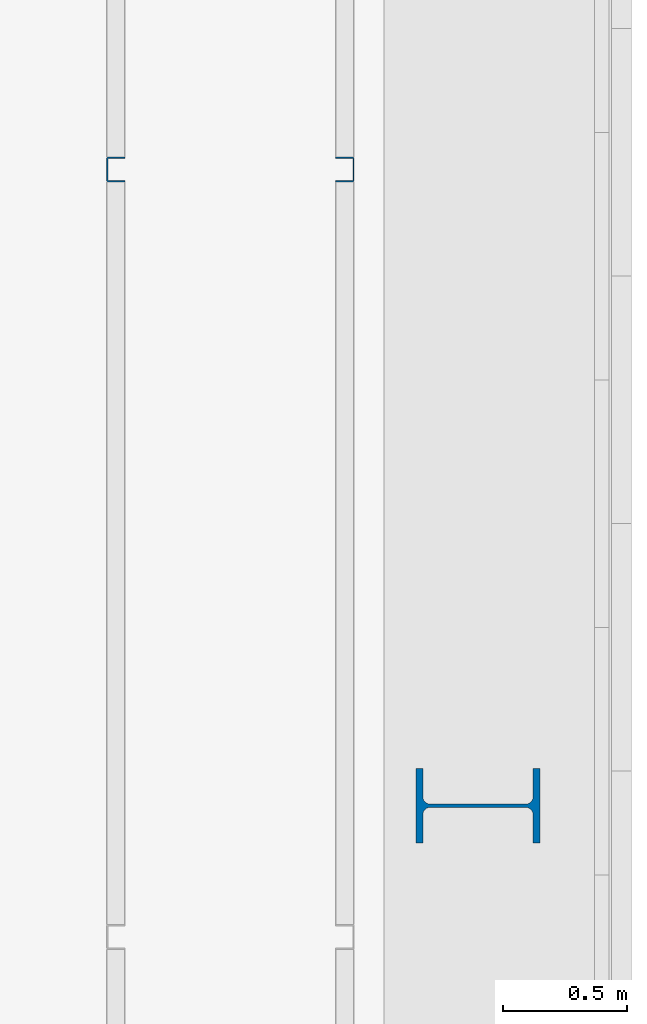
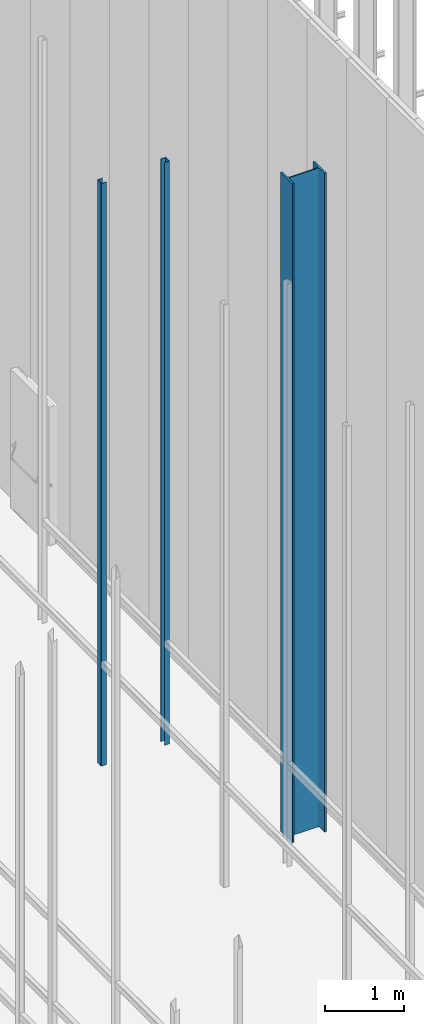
# One storey, part 30 of 302: 3 columns.
"""IFC2X3 building model written with IfcOpenShell, lengths in metres."""

from ifc_helpers import new_model, entity, si_unit, converted_unit, derived_unit, direction, frame, frame_2d, origin, place, context, subcontext, project, spatial, polyline, circle_curve, parameter, trimmed, segment, composite_curve, i_section, outline, extrude, source, transform, mapped, material, type_object, type_shapes, element, save


model = new_model("IFC2X3")

# Units and contexts
model_context = context("Model", 3, precision=1e-05, world=origin(), true_north=direction((6.12303176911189e-17, 1.0)))
body_context = subcontext(model_context, "Body", "Model", "MODEL_VIEW")
ifc_project = project(units=[si_unit("LENGTHUNIT", "METRE"), si_unit("AREAUNIT", "SQUARE_METRE"), si_unit("VOLUMEUNIT", "CUBIC_METRE"), converted_unit("PLANEANGLEUNIT", "DEGREE", entity("IfcRatioMeasure", 0.0174532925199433), si_unit("PLANEANGLEUNIT", "RADIAN"), dimensions=[0, 0, 0, 0, 0, 0, 0]), si_unit("MASSUNIT", "GRAM", prefix="KILO"), derived_unit("MASSDENSITYUNIT", [(si_unit("MASSUNIT", "GRAM", prefix="KILO"), 1), (si_unit("LENGTHUNIT", "METRE"), -3)]), derived_unit("MOMENTOFINERTIAUNIT", [(si_unit("LENGTHUNIT", "METRE"), 4)]), si_unit("TIMEUNIT", "SECOND"), si_unit("FREQUENCYUNIT", "HERTZ"), si_unit("THERMODYNAMICTEMPERATUREUNIT", "DEGREE_CELSIUS"), derived_unit("THERMALTRANSMITTANCEUNIT", [(si_unit("MASSUNIT", "GRAM", prefix="KILO"), 1), (si_unit("THERMODYNAMICTEMPERATUREUNIT", "KELVIN"), -1), (si_unit("TIMEUNIT", "SECOND"), -3)]), derived_unit("VOLUMETRICFLOWRATEUNIT", [(si_unit("LENGTHUNIT", "METRE"), 3), (si_unit("TIMEUNIT", "SECOND"), -1)]), si_unit("ELECTRICCURRENTUNIT", "AMPERE"), si_unit("ELECTRICVOLTAGEUNIT", "VOLT"), si_unit("POWERUNIT", "WATT"), si_unit("FORCEUNIT", "NEWTON", prefix="KILO"), si_unit("ILLUMINANCEUNIT", "LUX"), si_unit("LUMINOUSFLUXUNIT", "LUMEN"), si_unit("LUMINOUSINTENSITYUNIT", "CANDELA"), derived_unit("USERDEFINED", [(si_unit("MASSUNIT", "GRAM", prefix="KILO"), -1), (si_unit("LENGTHUNIT", "METRE"), -2), (si_unit("TIMEUNIT", "SECOND"), 3), (si_unit("LUMINOUSFLUXUNIT", "LUMEN"), 1)]), derived_unit("LINEARVELOCITYUNIT", [(si_unit("LENGTHUNIT", "METRE"), 1), (si_unit("TIMEUNIT", "SECOND"), -1)]), si_unit("PRESSUREUNIT", "PASCAL"), derived_unit("USERDEFINED", [(si_unit("LENGTHUNIT", "METRE"), -2), (si_unit("MASSUNIT", "GRAM", prefix="KILO"), 1), (si_unit("TIMEUNIT", "SECOND"), -2)]), derived_unit("LINEARFORCEUNIT", [(si_unit("MASSUNIT", "GRAM", prefix="KILO"), 1), (si_unit("LENGTHUNIT", "METRE"), 1), (si_unit("TIMEUNIT", "SECOND"), -2), (si_unit("LENGTHUNIT", "METRE"), -1)]), derived_unit("PLANARFORCEUNIT", [(si_unit("MASSUNIT", "GRAM", prefix="KILO"), 1), (si_unit("LENGTHUNIT", "METRE"), 1), (si_unit("TIMEUNIT", "SECOND"), -2), (si_unit("LENGTHUNIT", "METRE"), -2)])], contexts=[model_context])

# Site, building, storey
site_placement = place(None, origin())
site = spatial("IfcSite", under=ifc_project, at=site_placement, Name="Default", CompositionType="ELEMENT")
building_placement = place(site_placement, origin())
building = spatial("IfcBuilding", under=site, at=building_placement, CompositionType="ELEMENT")
storey_placement = place(building_placement, frame((0.0, 0.0, -1.3)))
storey = spatial("IfcBuildingStorey", under=building, at=storey_placement, Name="00_EG", CompositionType="ELEMENT", Elevation=-1.3)

# Columns
ifc_material = material(Name="Metall - Baustahl S235")
column_type_1 = type_object("IfcColumnType", Name="HEB Stütze:HEB 500", PredefinedType="COLUMN", material=ifc_material)
shared_shape_1 = source(origin(), body_context, "Body", "SweptSolid", [
    extrude(i_section(OverallWidth=0.3, OverallDepth=0.5, WebThickness=0.0145, FlangeThickness=0.028, FilletRadius=0.027, at=frame_2d((0.0, -2.77555756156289e-17), x_axis=(0.0, 1.0))), frame((0.0, 0.0, -0.0300000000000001), z_axis=(0.0, 0.0, 1.0), x_axis=(0.0, -1.0, 0.0)), (0.0, 0.0, 1.0), 10.175),
])
type_shapes(column_type_1, [shared_shape_1])
column_1_placement = place(storey_placement, frame((-177.890111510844, 40.028088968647, 1.3), z_axis=(0.0, 0.0, 1.0), x_axis=(0.0, -1.0, 0.0)))
element("IfcColumn", 1, at=column_1_placement, inside=storey, type_object=column_type_1, material=ifc_material, Name="HEB Stütze:HEB 500", ObjectType="HEB Stütze:HEB 500", context=body_context, shape_type="MappedRepresentation", body=[
    mapped(shared_shape_1, transform((0.0, 0.0, 0.0), scale=1.0)),
])
column_type_2 = type_object("IfcColumnType", Name="Leichter Stahl Schlossschrauben Stütze:C 100", PredefinedType="COLUMN", material=ifc_material)
shared_shape_2 = source(origin(), body_context, "Body", "SweptSolid", [
    extrude(outline(composite_curve([segment(polyline([(-0.0469749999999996, -0.0499999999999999), (0.0214500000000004, -0.0499999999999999)]), True, "CONTINUOUS"), segment(trimmed(circle_curve(frame_2d((0.0214500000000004, -0.0434249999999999), x_axis=(0.0, -1.0)), 0.00657500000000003), [parameter(0.0)], [parameter(89.9999999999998)], True, "PARAMETER"), True, "CONTINUOUS"), segment(polyline([(0.0280250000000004, -0.0434249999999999), (0.0280250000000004, 0.0434250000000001)]), True, "CONTINUOUS"), segment(trimmed(circle_curve(frame_2d((0.0214500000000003, 0.0434250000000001), x_axis=(1.0, 0.0)), 0.0065750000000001), [parameter(0.0)], [parameter(89.9999999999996)], True, "PARAMETER"), True, "CONTINUOUS"), segment(polyline([(0.0214500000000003, 0.0500000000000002), (-0.0469750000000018, 0.0500000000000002)]), True, "CONTINUOUS"), segment(polyline([(-0.0469750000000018, 0.0500000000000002), (-0.0469750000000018, 0.0450000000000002)]), True, "CONTINUOUS"), segment(polyline([(-0.0469750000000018, 0.0450000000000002), (0.0214500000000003, 0.0450000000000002)]), True, "CONTINUOUS"), segment(trimmed(circle_curve(frame_2d((0.0214500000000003, 0.0434249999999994), x_axis=(0.0, 1.0)), 0.00157500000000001), [parameter(269.999999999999)], [parameter(0.0)], True, "PARAMETER"), False, "CONTINUOUS"), segment(polyline([(0.0230250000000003, 0.0434249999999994), (0.0230250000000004, -0.0434249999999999)]), True, "CONTINUOUS"), segment(trimmed(circle_curve(frame_2d((0.0214500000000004, -0.0434249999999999), x_axis=(1.0, 0.0)), 0.00157500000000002), [parameter(270.0)], [parameter(0.0)], True, "PARAMETER"), False, "CONTINUOUS"), segment(polyline([(0.0214500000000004, -0.0449999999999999), (-0.0469749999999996, -0.0449999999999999)]), True, "CONTINUOUS"), segment(polyline([(-0.0469749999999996, -0.0449999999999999), (-0.0469749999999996, -0.0499999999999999)]), True, "CONTINUOUS")], self_intersect=False)), frame((0.0499999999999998, 0.0280250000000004, -0.0300000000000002), z_axis=(0.0, 0.0, 1.0), x_axis=(0.0, -1.0, 0.0)), (0.0, 0.0, 1.0), 9.0),
])
type_shapes(column_type_2, [shared_shape_2])
column_2_placement = place(storey_placement, frame((-179.390111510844, 42.648088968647, 1.3), z_axis=(0.0, 0.0, 1.0), x_axis=(0.0, -1.0, 0.0)))
element("IfcColumn", 2, at=column_2_placement, inside=storey, type_object=column_type_2, material=ifc_material, Name="Leichter Stahl Schlossschrauben Stütze:C 100", ObjectType="Leichter Stahl Schlossschrauben Stütze:C 100", context=body_context, shape_type="MappedRepresentation", body=[
    mapped(shared_shape_2, transform((0.0, 0.0, 0.0), scale=1.0)),
])
column_type_3 = type_object("IfcColumnType", Name="Leichter Stahl Schlossschrauben Stütze:C 100", PredefinedType="COLUMN", material=ifc_material)
shared_shape_3 = source(origin(), body_context, "Body", "SweptSolid", [
    extrude(outline(composite_curve([segment(polyline([(-0.0214500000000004, -0.0499999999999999), (0.0469749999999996, -0.0499999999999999)]), True, "CONTINUOUS"), segment(polyline([(0.0469749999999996, -0.0499999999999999), (0.0469749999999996, -0.0449999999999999)]), True, "CONTINUOUS"), segment(polyline([(0.0469749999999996, -0.0449999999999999), (-0.0214500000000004, -0.045)]), True, "CONTINUOUS"), segment(trimmed(circle_curve(frame_2d((-0.0214500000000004, -0.043425), x_axis=(0.0, -1.0)), 0.00157500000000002), [parameter(270.0)], [parameter(0.0)], True, "PARAMETER"), False, "CONTINUOUS"), segment(polyline([(-0.0230250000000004, -0.0434249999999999), (-0.0230250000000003, 0.0434249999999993)]), True, "CONTINUOUS"), segment(trimmed(circle_curve(frame_2d((-0.0214500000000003, 0.0434249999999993), x_axis=(-1.0, 0.0)), 0.00157500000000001), [parameter(269.999999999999)], [parameter(0.0)], True, "PARAMETER"), False, "CONTINUOUS"), segment(polyline([(-0.0214500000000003, 0.0450000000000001), (0.0469750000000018, 0.0450000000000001)]), True, "CONTINUOUS"), segment(polyline([(0.0469750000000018, 0.0450000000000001), (0.0469750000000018, 0.0500000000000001)]), True, "CONTINUOUS"), segment(polyline([(0.0469750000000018, 0.0500000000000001), (-0.0214500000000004, 0.0500000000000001)]), True, "CONTINUOUS"), segment(trimmed(circle_curve(frame_2d((-0.0214500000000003, 0.043425), x_axis=(0.0, 1.0)), 0.0065750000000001), [parameter(0.0)], [parameter(89.9999999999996)], True, "PARAMETER"), True, "CONTINUOUS"), segment(polyline([(-0.0280250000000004, 0.043425), (-0.0280250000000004, -0.043425)]), True, "CONTINUOUS"), segment(trimmed(circle_curve(frame_2d((-0.0214500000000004, -0.0434249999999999), x_axis=(-1.0, 0.0)), 0.00657500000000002), [parameter(0.0)], [parameter(89.9999999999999)], True, "PARAMETER"), True, "CONTINUOUS")], self_intersect=False)), frame((0.0499999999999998, -0.0280250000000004, -0.0300000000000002), z_axis=(0.0, 0.0, 1.0), x_axis=(0.0, -1.0, 0.0)), (0.0, 0.0, 1.0), 9.0),
])
type_shapes(column_type_3, [shared_shape_3])
column_3_placement = place(storey_placement, frame((-178.390111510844, 42.648088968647, 1.3), z_axis=(0.0, 0.0, 1.0), x_axis=(0.0, -1.0, 0.0)))
element("IfcColumn", 3, at=column_3_placement, inside=storey, type_object=column_type_3, material=ifc_material, Name="Leichter Stahl Schlossschrauben Stütze:C 100", ObjectType="Leichter Stahl Schlossschrauben Stütze:C 100", context=body_context, shape_type="MappedRepresentation", body=[
    mapped(shared_shape_3, transform((0.0, 0.0, 0.0), scale=1.0)),
])

save(model, "model.ifc")
